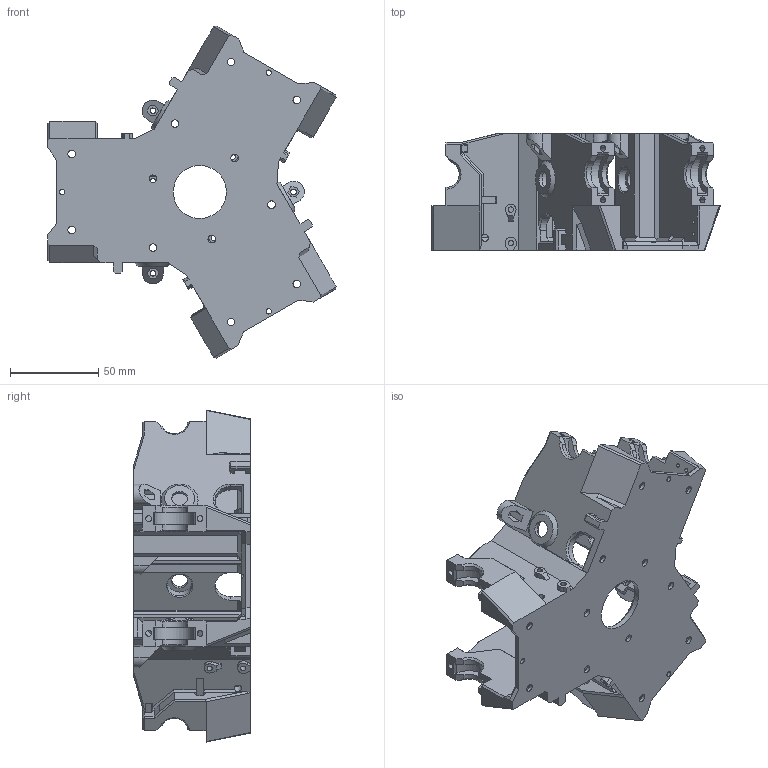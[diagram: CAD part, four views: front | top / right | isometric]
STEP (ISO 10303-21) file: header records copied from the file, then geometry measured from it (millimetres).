
FILE_DESCRIPTION(/* description */ (''),/* implementation_level */ '2;1');
FILE_NAME(/* name */ 'D:\3D печать\Мои проекты\Archy MK 2\STEP\MK3\редуктор V3.3.stp',/* time_stamp */ '2019-09-13T23:56:02+06:00',/* author */ ('Пользователь'),/* organization */ (''),/* preprocessor_version */ 'ST-DEVELOPER v16.5',/* originating_system */ 'Autodesk Inventor 2017',/* authorisation */ '');
FILE_SCHEMA (('AUTOMOTIVE_DESIGN { 1 0 10303 214 3 1 1 }'));
Length unit declared in the file: millimetre
Products named in the file (1): редуктор V3.3
Bounding box: 163.14 x 66 x 187.88 mm (x, y, z)
Volume: 261490.6 mm3; surface area: 102730.8 mm2
Topology: 1 solids, 1 shells, 860 faces, 2434 edges, 1589 vertices
Faces by surface type: plane 714, cylinder 97, cone 30, bspline 19
Full cylindrical faces by diameter (mm): 2 x6, 3 x9, 3.2 x6, 3.3 x12, 4 x3, 4.3 x12, 9 x6, 14.1 x6, 30 x1
Entity records: 27535 total; most frequent: CARTESIAN_POINT 5454, ORIENTED_EDGE 4672, DIRECTION 4219, EDGE_CURVE 2336, LINE 2003, VECTOR 2003, VERTEX_POINT 1564, AXIS2_PLACEMENT_3D 1108
